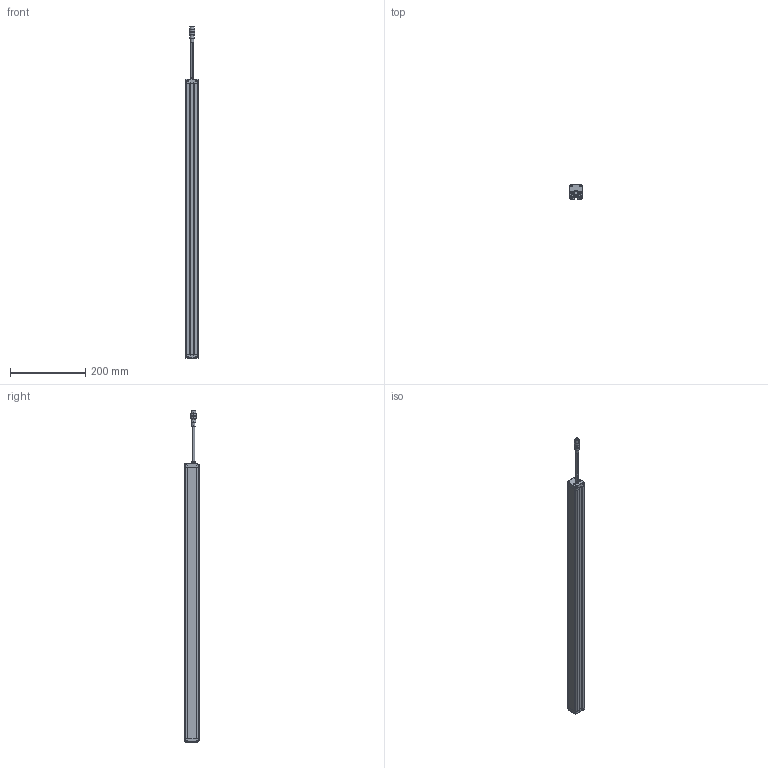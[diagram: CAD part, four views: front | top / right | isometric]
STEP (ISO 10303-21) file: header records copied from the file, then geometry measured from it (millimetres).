
FILE_DESCRIPTION((''),'2;1');
FILE_NAME('PRT0018','2026-03-31T10:56:56',('Administrator'),(''),'CREO PARAMETRIC BY PTC INC, 2016510','CREO PARAMETRIC BY PTC INC, 2016510','');
FILE_SCHEMA(('AUTOMOTIVE_DESIGN { 1 0 10303 214 1 1 1 1 }'));
Length unit declared in the file: millimetre
Products named in the file (1): PRT0018
Bounding box: 33 x 38 x 881.9 mm (x, y, z)
Surface area: 167863.5 mm2 (no closed solid volume)
Topology: 0 solids, 12 shells, 819 faces, 2194 edges, 1394 vertices
Faces by surface type: plane 388, cylinder 235, extrusion 88, sphere 40, torus 36, cone 28, bspline 4
Entity records: 32448 total; most frequent: CARTESIAN_POINT 6125, ORIENTED_EDGE 4284, DIRECTION 4048, EDGE_CURVE 2142, VERTEX_POINT 1394, AXIS2_PLACEMENT_3D 1377, VECTOR 1294, LINE 1206
